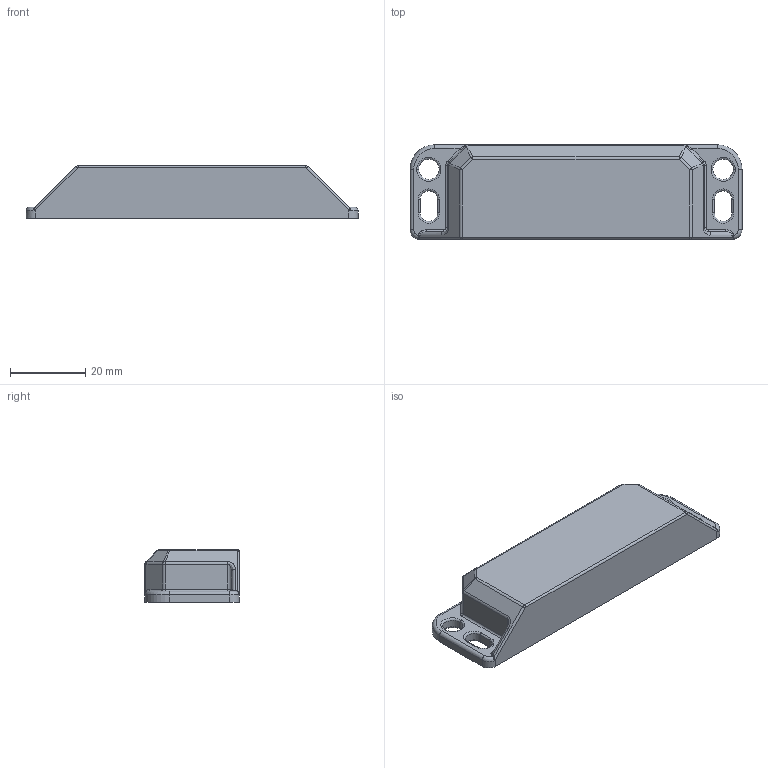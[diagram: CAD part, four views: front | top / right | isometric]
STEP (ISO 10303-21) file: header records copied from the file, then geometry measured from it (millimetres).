
FILE_DESCRIPTION (( 'STEP AP203' ), '1' );
FILE_NAME ('3-Actuator LM STEP.STEP', '2012-06-18T08:48:47', ( '' ), ( '' ), 'SwSTEP 2.0', 'SolidWorks 2012', '' );
FILE_SCHEMA (( 'CONFIG_CONTROL_DESIGN' ));
Length unit declared in the file: millimetre
Products named in the file (1): 3-Actuator LM STEP
Bounding box: 88 x 25 x 14 mm (x, y, z)
Surface area: 8096.1 mm2 (no closed solid volume)
Topology: 0 solids, 5 shells, 181 faces, 476 edges, 294 vertices
Faces by surface type: cylinder 63, plane 49, bspline 31, torus 26, sphere 8, cone 4
Entity records: 6361 total; most frequent: CARTESIAN_POINT 2029, ORIENTED_EDGE 878, DIRECTION 874, EDGE_CURVE 472, AXIS2_PLACEMENT_3D 327, VERTEX_POINT 294, LINE 220, VECTOR 220
